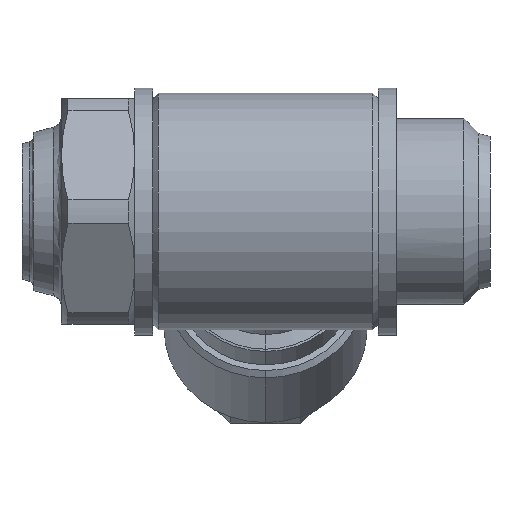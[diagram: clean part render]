
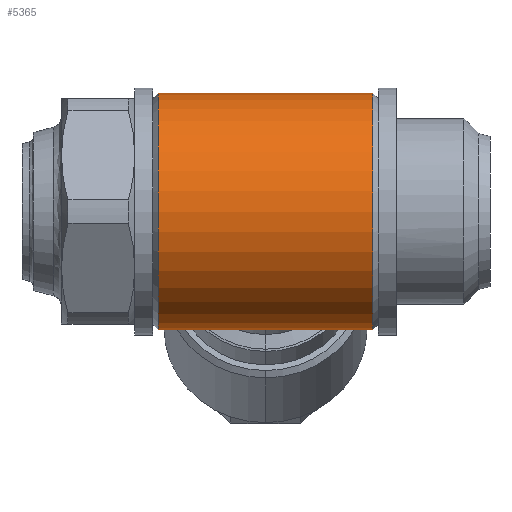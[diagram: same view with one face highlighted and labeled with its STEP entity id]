
A CAD part, left-side view. The second image highlights one B-rep face of the part: STEP entity #5365.
In plain terms, the highlighted cylindrical face has radius 10.5 mm (diameter 21 mm), a partial arc.
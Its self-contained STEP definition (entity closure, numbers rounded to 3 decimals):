
#46 = CARTESIAN_POINT ( 'NONE',  ( 0., 8.9, 0. ) ) ;
#145 = VERTEX_POINT ( 'NONE', #4179 ) ;
#498 = VERTEX_POINT ( 'NONE', #1510 ) ;
#530 = DIRECTION ( 'NONE',  ( 0., 0., -1. ) ) ;
#607 = EDGE_CURVE ( 'NONE', #145, #498, #5717, .T. ) ;
#728 = VECTOR ( 'NONE', #5537, 1000. ) ;
#1015 = ORIENTED_EDGE ( 'NONE', *, *, #4799, .T. ) ;
#1305 = FACE_OUTER_BOUND ( 'NONE', #4002, .T. ) ;
#1307 = CARTESIAN_POINT ( 'NONE',  ( 0., 29.4, 0. ) ) ;
#1510 = CARTESIAN_POINT ( 'NONE',  ( 0., 10.4, 10.5 ) ) ;
#1776 = DIRECTION ( 'NONE',  ( 0., 0., -1. ) ) ;
#1925 = ORIENTED_EDGE ( 'NONE', *, *, #3747, .T. ) ;
#2169 = AXIS2_PLACEMENT_3D ( 'NONE', #46, #3817, #530 ) ;
#2270 = CYLINDRICAL_SURFACE ( 'NONE', #2169, 10.5 ) ;
#2553 = CIRCLE ( 'NONE', #4355, 10.5 ) ;
#2841 = DIRECTION ( 'NONE',  ( 0., 1., 0. ) ) ;
#2926 = CARTESIAN_POINT ( 'NONE',  ( 0., 10.4, -10.5 ) ) ;
#2934 = LINE ( 'NONE', #5588, #4210 ) ;
#2993 = ORIENTED_EDGE ( 'NONE', *, *, #607, .F. ) ;
#3445 = EDGE_CURVE ( 'NONE', #3583, #498, #3512, .T. ) ;
#3512 = CIRCLE ( 'NONE', #4640, 10.5 ) ;
#3583 = VERTEX_POINT ( 'NONE', #2926 ) ;
#3747 = EDGE_CURVE ( 'NONE', #5715, #3583, #2934, .T. ) ;
#3817 = DIRECTION ( 'NONE',  ( 0., -1., 0. ) ) ;
#4002 = EDGE_LOOP ( 'NONE', ( #2993, #1015, #1925, #4113 ) ) ;
#4113 = ORIENTED_EDGE ( 'NONE', *, *, #3445, .T. ) ;
#4179 = CARTESIAN_POINT ( 'NONE',  ( 0., 29.4, 10.5 ) ) ;
#4210 = VECTOR ( 'NONE', #5080, 1000. ) ;
#4355 = AXIS2_PLACEMENT_3D ( 'NONE', #1307, #4664, #1776 ) ;
#4640 = AXIS2_PLACEMENT_3D ( 'NONE', #5748, #2841, #6225 ) ;
#4664 = DIRECTION ( 'NONE',  ( 0., -1., 0. ) ) ;
#4799 = EDGE_CURVE ( 'NONE', #145, #5715, #2553, .T. ) ;
#5078 = CARTESIAN_POINT ( 'NONE',  ( 0., 8.9, 10.5 ) ) ;
#5080 = DIRECTION ( 'NONE',  ( 0., -1., 0. ) ) ;
#5365 = ADVANCED_FACE ( 'NONE', ( #1305 ), #2270, .T. ) ;
#5537 = DIRECTION ( 'NONE',  ( 0., -1., 0. ) ) ;
#5588 = CARTESIAN_POINT ( 'NONE',  ( 0., 8.9, -10.5 ) ) ;
#5715 = VERTEX_POINT ( 'NONE', #6011 ) ;
#5717 = LINE ( 'NONE', #5078, #728 ) ;
#5748 = CARTESIAN_POINT ( 'NONE',  ( 0., 10.4, 0. ) ) ;
#6011 = CARTESIAN_POINT ( 'NONE',  ( 0., 29.4, -10.5 ) ) ;
#6225 = DIRECTION ( 'NONE',  ( 0., 0., -1. ) ) ;
